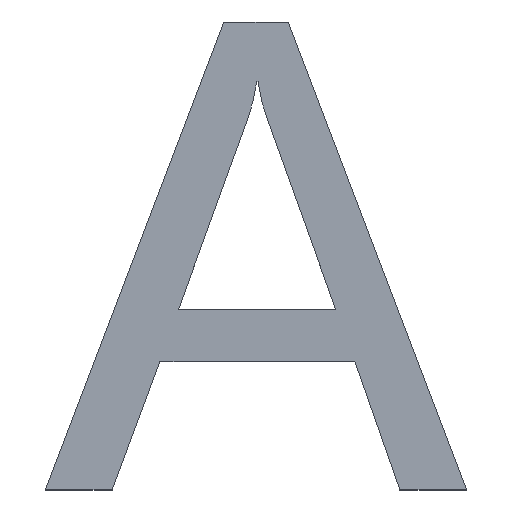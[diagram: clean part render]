
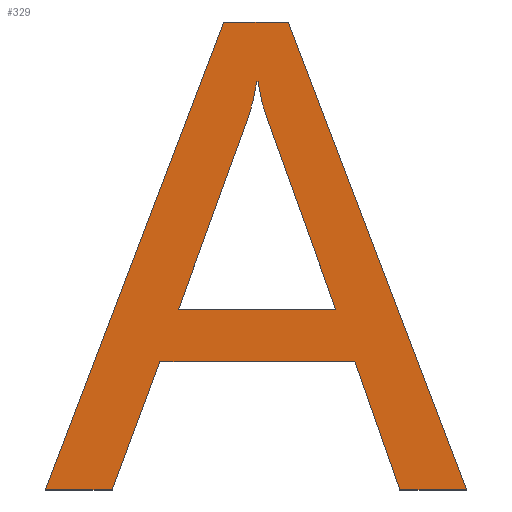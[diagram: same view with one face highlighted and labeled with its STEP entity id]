
A CAD part, top view. The second image highlights one B-rep face of the part: STEP entity #329.
In plain terms, the highlighted planar face has unit normal (0, 0, 1).
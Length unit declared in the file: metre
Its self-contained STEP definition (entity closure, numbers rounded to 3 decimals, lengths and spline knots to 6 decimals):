
#12=B_SPLINE_CURVE_WITH_KNOTS('',3,(#540,#541,#542,#543),.UNSPECIFIED.,
 .F.,.F.,(4,4),(3.,4.),.UNSPECIFIED.);
#14=B_SPLINE_CURVE_WITH_KNOTS('',3,(#565,#566,#567,#568),.UNSPECIFIED.,
 .F.,.F.,(4,4),(1.,2.),.UNSPECIFIED.);
#74=ORIENTED_EDGE('',*,*,#102,.T.);
#75=ORIENTED_EDGE('',*,*,#118,.T.);
#76=ORIENTED_EDGE('',*,*,#115,.T.);
#77=ORIENTED_EDGE('',*,*,#112,.T.);
#78=ORIENTED_EDGE('',*,*,#109,.T.);
#79=ORIENTED_EDGE('',*,*,#106,.T.);
#80=ORIENTED_EDGE('',*,*,#142,.F.);
#81=ORIENTED_EDGE('',*,*,#120,.F.);
#82=ORIENTED_EDGE('',*,*,#124,.F.);
#83=ORIENTED_EDGE('',*,*,#127,.F.);
#84=ORIENTED_EDGE('',*,*,#130,.F.);
#85=ORIENTED_EDGE('',*,*,#133,.F.);
#86=ORIENTED_EDGE('',*,*,#136,.F.);
#87=ORIENTED_EDGE('',*,*,#139,.F.);
#102=EDGE_CURVE('',#144,#145,#172,.T.);
#106=EDGE_CURVE('',#148,#144,#12,.T.);
#109=EDGE_CURVE('',#150,#148,#177,.T.);
#112=EDGE_CURVE('',#152,#150,#14,.T.);
#115=EDGE_CURVE('',#154,#152,#181,.T.);
#118=EDGE_CURVE('',#145,#154,#184,.T.);
#120=EDGE_CURVE('',#156,#157,#186,.T.);
#124=EDGE_CURVE('',#160,#156,#190,.T.);
#127=EDGE_CURVE('',#162,#160,#193,.T.);
#130=EDGE_CURVE('',#164,#162,#196,.T.);
#133=EDGE_CURVE('',#166,#164,#199,.T.);
#136=EDGE_CURVE('',#168,#166,#202,.T.);
#139=EDGE_CURVE('',#170,#168,#205,.T.);
#142=EDGE_CURVE('',#157,#170,#208,.T.);
#144=VERTEX_POINT('',#525);
#145=VERTEX_POINT('',#526);
#148=VERTEX_POINT('',#544);
#150=VERTEX_POINT('',#553);
#152=VERTEX_POINT('',#569);
#154=VERTEX_POINT('',#578);
#156=VERTEX_POINT('',#587);
#157=VERTEX_POINT('',#588);
#160=VERTEX_POINT('',#596);
#162=VERTEX_POINT('',#602);
#164=VERTEX_POINT('',#608);
#166=VERTEX_POINT('',#614);
#168=VERTEX_POINT('',#620);
#170=VERTEX_POINT('',#626);
#172=LINE('',#524,#210);
#177=LINE('',#552,#215);
#181=LINE('',#577,#219);
#184=LINE('',#583,#222);
#186=LINE('',#586,#224);
#190=LINE('',#595,#228);
#193=LINE('',#601,#231);
#196=LINE('',#607,#234);
#199=LINE('',#613,#237);
#202=LINE('',#619,#240);
#205=LINE('',#625,#243);
#208=LINE('',#631,#246);
#210=VECTOR('',#458,1.);
#215=VECTOR('',#465,1.);
#219=VECTOR('',#471,1.);
#222=VECTOR('',#476,1.);
#224=VECTOR('',#480,1.);
#228=VECTOR('',#486,1.);
#231=VECTOR('',#491,1.);
#234=VECTOR('',#496,1.);
#237=VECTOR('',#501,1.);
#240=VECTOR('',#506,1.);
#243=VECTOR('',#511,1.);
#246=VECTOR('',#516,1.);
#262=EDGE_LOOP('',(#74,#75,#76,#77,#78,#79));
#263=EDGE_LOOP('',(#80,#81,#82,#83,#84,#85,#86,#87));
#280=FACE_BOUND('',#262,.T.);
#281=FACE_BOUND('',#263,.T.);
#296=PLANE('',#452);
#329=ADVANCED_FACE('',(#280,#281),#296,.T.);
#452=AXIS2_PLACEMENT_3D('',#633,#518,#519);
#458=DIRECTION('',(0.339,-0.941,0.));
#465=DIRECTION('',(1.,0.,0.));
#471=DIRECTION('',(0.342,0.94,0.));
#476=DIRECTION('',(-1.,0.,0.));
#480=DIRECTION('',(-1.,0.,0.));
#486=DIRECTION('',(-0.349,-0.937,0.));
#491=DIRECTION('',(-1.,0.,0.));
#496=DIRECTION('',(-0.332,0.943,0.));
#501=DIRECTION('',(-1.,0.,0.));
#506=DIRECTION('',(0.356,-0.935,0.));
#511=DIRECTION('',(1.,0.,0.));
#516=DIRECTION('',(0.356,0.935,0.));
#518=DIRECTION('',(0.,0.,1.));
#519=DIRECTION('',(0.,-1.,0.));
#524=CARTESIAN_POINT('',(-0.098154,-0.011474,0.006263));
#525=CARTESIAN_POINT('',(-0.098154,-0.011474,0.006263));
#526=CARTESIAN_POINT('',(-0.098145,-0.0115,0.006263));
#540=CARTESIAN_POINT('',(-0.098155,-0.01147,0.006263));
#541=CARTESIAN_POINT('',(-0.098155,-0.011472,0.006263));
#542=CARTESIAN_POINT('',(-0.098154,-0.011473,0.006263));
#543=CARTESIAN_POINT('',(-0.098154,-0.011474,0.006263));
#544=CARTESIAN_POINT('',(-0.098155,-0.01147,0.006263));
#552=CARTESIAN_POINT('',(-0.098155,-0.01147,0.006263));
#553=CARTESIAN_POINT('',(-0.098155,-0.01147,0.006263));
#565=CARTESIAN_POINT('',(-0.098156,-0.011474,0.006263));
#566=CARTESIAN_POINT('',(-0.098156,-0.011474,0.006263));
#567=CARTESIAN_POINT('',(-0.098156,-0.011472,0.006263));
#568=CARTESIAN_POINT('',(-0.098155,-0.01147,0.006263));
#569=CARTESIAN_POINT('',(-0.098156,-0.011474,0.006263));
#577=CARTESIAN_POINT('',(-0.098165,-0.0115,0.006263));
#578=CARTESIAN_POINT('',(-0.098165,-0.0115,0.006263));
#583=CARTESIAN_POINT('',(-0.098145,-0.0115,0.006263));
#586=CARTESIAN_POINT('',(-0.098183,-0.011523,0.006263));
#587=CARTESIAN_POINT('',(-0.098174,-0.011523,0.006263));
#588=CARTESIAN_POINT('',(-0.098183,-0.011523,0.006263));
#595=CARTESIAN_POINT('',(-0.098174,-0.011523,0.006263));
#596=CARTESIAN_POINT('',(-0.098168,-0.011506,0.006263));
#601=CARTESIAN_POINT('',(-0.098168,-0.011506,0.006263));
#602=CARTESIAN_POINT('',(-0.098143,-0.011506,0.006263));
#607=CARTESIAN_POINT('',(-0.098143,-0.011506,0.006263));
#608=CARTESIAN_POINT('',(-0.098137,-0.011523,0.006263));
#613=CARTESIAN_POINT('',(-0.098137,-0.011523,0.006263));
#614=CARTESIAN_POINT('',(-0.098128,-0.011523,0.006263));
#619=CARTESIAN_POINT('',(-0.098128,-0.011523,0.006263));
#620=CARTESIAN_POINT('',(-0.098151,-0.011462,0.006263));
#625=CARTESIAN_POINT('',(-0.098151,-0.011462,0.006263));
#626=CARTESIAN_POINT('',(-0.09816,-0.011462,0.006263));
#631=CARTESIAN_POINT('',(-0.09816,-0.011462,0.006263));
#633=CARTESIAN_POINT('',(-0.09707,-0.011972,0.006263));
